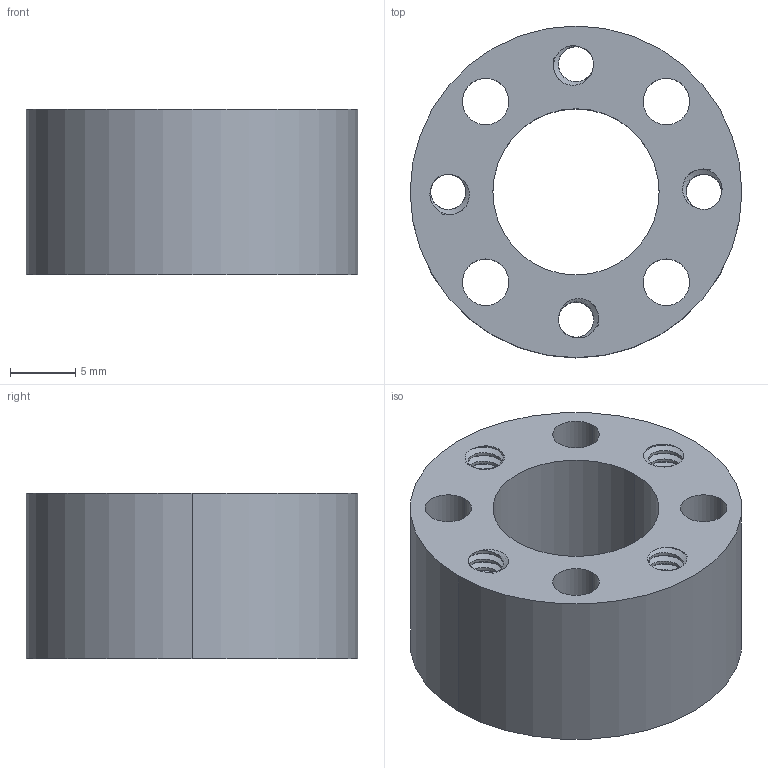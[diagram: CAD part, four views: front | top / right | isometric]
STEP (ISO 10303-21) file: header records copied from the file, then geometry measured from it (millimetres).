
FILE_DESCRIPTION (( 'STEP AP203' ), '1' );
FILE_NAME ('545384.STEP', '2016-08-17T13:54:15', ( '' ), ( '' ), 'SwSTEP 2.0', 'SolidWorks 2014', '' );
FILE_SCHEMA (( 'CONFIG_CONTROL_DESIGN' ));
Length unit declared in the file: inch
Products named in the file (1): 545384
Bounding box: 25.39 x 25.39 x 12.7 mm (x, y, z)
Volume: 3939.6 mm3; surface area: 3483.4 mm2
Topology: 1 solids, 1 shells, 288 faces, 858 edges, 572 vertices
Faces by surface type: cylinder 278, bspline 8, plane 2
Entity records: 21869 total; most frequent: CARTESIAN_POINT 15615, ORIENTED_EDGE 1716, DIRECTION 920, EDGE_CURVE 858, VERTEX_POINT 572, AXIS2_PLACEMENT_3D 325, EDGE_LOOP 306, FACE_OUTER_BOUND 288
